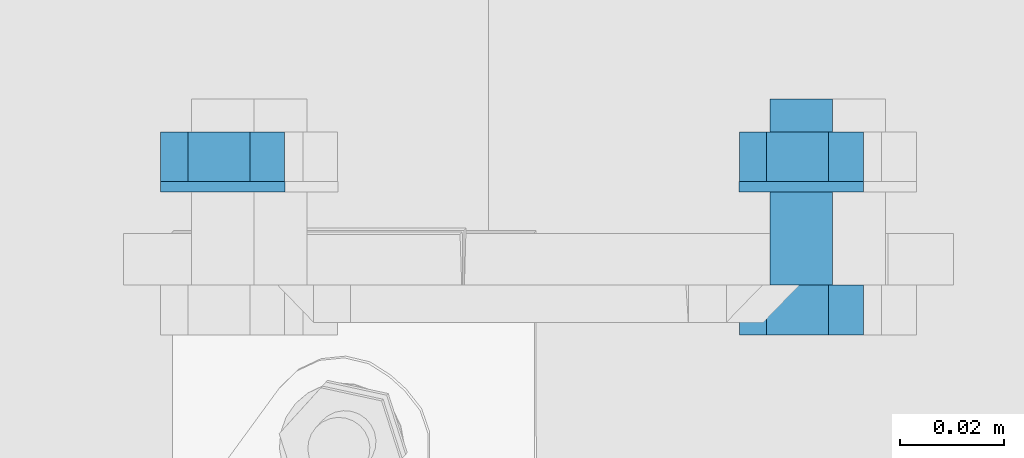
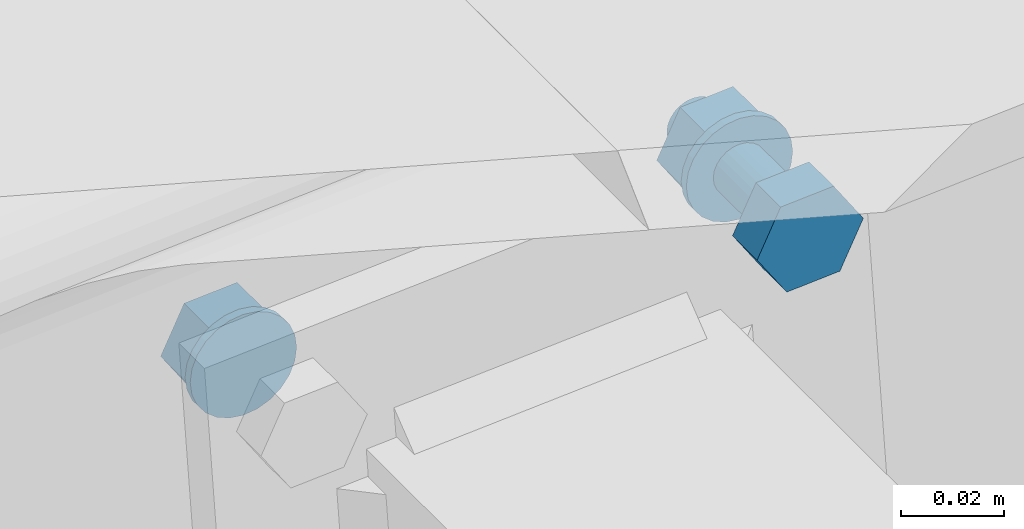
# One storey, part 71 of 72: 6 mechanical fasteners.
"""IFC4 building model written with IfcOpenShell, lengths in metres."""

from ifc_helpers import new_model, si_unit, frame, origin_with_axes, place, context, project, spatial, polyline, outline, extrude, type_object, element, save


model = new_model("IFC4")

# Units and contexts
model_context = context("Model", 3, precision=1e-05, world=origin_with_axes())
ifc_project = project(units=[si_unit("LENGTHUNIT", "METRE"), si_unit("AREAUNIT", "SQUARE_METRE"), si_unit("VOLUMEUNIT", "CUBIC_METRE"), si_unit("MASSUNIT", "GRAM", prefix="KILO"), si_unit("TIMEUNIT", "SECOND"), si_unit("PLANEANGLEUNIT", "RADIAN"), si_unit("SOLIDANGLEUNIT", "STERADIAN"), si_unit("THERMODYNAMICTEMPERATUREUNIT", "DEGREE_CELSIUS")], contexts=[model_context])

# Site, building, storey
placement_1 = place(None, origin_with_axes())
site = spatial("IfcSite", under=ifc_project, at=placement_1, Name="Italia", CompositionType="ELEMENT")
building = spatial("IfcBuilding", under=site, at=placement_1, Name="Pensilina", CompositionType="ELEMENT")
storey = spatial("IfcBuildingStorey", under=building, at=placement_1, Name="Storey 0", CompositionType="ELEMENT", Elevation=0.0)

# Mechanical fasteners
mechanical_fastener_type_1 = type_object("IfcMechanicalFastenerType", Name="Collegamento 0605_0604", PredefinedType="BOLT")
placement_2 = place(placement_1, origin_with_axes())
mechanical_fastener_1_placement = place(placement_2, origin_with_axes())
element("IfcMechanicalFastener", 1, at=mechanical_fastener_1_placement, inside=storey, type_object=mechanical_fastener_type_1, Name="Collegamento 0605_0604", NominalDiameter=0.012, context=model_context, shape_type="SweptSolid", body=[
    extrude(outline(polyline([(0.0, 0.0, 0.0), (-0.0119729, -0.000807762, 0.0), (-0.0186586, 0.00915718, 0.0), (-0.0133719, 0.0199299, 0.0), (-0.00139904, 0.0207376, 0.0), (0.00528669, 0.0107727, 0.0), (0.0, 0.0, 0.0)])), frame((5.75551, 21.1356, 4.08767), z_axis=(0.0, -1.0, 0.0), x_axis=(1.0, 0.0, 0.0)), (0.0, 0.0, 1.0), 0.00959969),
])
mechanical_fastener_type_2 = type_object("IfcMechanicalFastenerType", Name="Collegamento 0605_0604", PredefinedType="BOLT")
mechanical_fastener_2_placement = place(placement_2, origin_with_axes())
element("IfcMechanicalFastener", 2, at=mechanical_fastener_2_placement, inside=storey, type_object=mechanical_fastener_type_2, Name="Collegamento 0605_0604", NominalDiameter=0.024, context=model_context, shape_type="SweptSolid", body=[
    extrude(outline(polyline([(0.0, 0.0, 0.0), (-0.000409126, -0.00310564, 0.0), (-0.00160789, -0.00600004, 0.0), (-0.00351477, -0.00848532, 0.0), (-0.00600004, -0.0103922, 0.0), (-0.00889444, -0.011591, 0.0), (-0.0120001, -0.0120001, 0.0), (-0.0151057, -0.011591, 0.0), (-0.0180001, -0.0103922, 0.0), (-0.0204854, -0.00848532, 0.0), (-0.0223923, -0.00600004, 0.0), (-0.023591, -0.00310564, 0.0), (-0.0240002, 0.0, 0.0), (-0.023591, 0.00310564, 0.0), (-0.0223923, 0.00600004, 0.0), (-0.0204854, 0.00848532, 0.0), (-0.0180001, 0.0103922, 0.0), (-0.0151057, 0.011591, 0.0), (-0.0120001, 0.0120001, 0.0), (-0.00889444, 0.011591, 0.0), (-0.00600004, 0.0103922, 0.0), (-0.00351477, 0.00848532, 0.0), (-0.00160789, 0.00600004, 0.0), (-0.000409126, 0.00310564, 0.0), (0.0, 0.0, 0.0)])), frame((5.76082, 21.126, 4.09764), z_axis=(0.0, -1.0, 0.0), x_axis=(1.0, 0.0, 0.0)), (0.0, 0.0, 1.0), 0.00200081),
])
mechanical_fastener_type_3 = type_object("IfcMechanicalFastenerType", Name="Collegamento 0605_0604", PredefinedType="BOLT")
mechanical_fastener_3_placement = place(placement_2, origin_with_axes())
element("IfcMechanicalFastener", 3, at=mechanical_fastener_3_placement, inside=storey, type_object=mechanical_fastener_type_3, Name="Collegamento 0605_0604", NominalDiameter=0.012, context=model_context, shape_type="SweptSolid", body=[
    extrude(outline(polyline([(0.0, 0.0, 0.0), (-0.0119729, -0.000807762, 0.0), (-0.0186586, 0.00915718, 0.0), (-0.0133719, 0.0199299, 0.0), (-0.00139904, 0.0207376, 0.0), (0.00528669, 0.0107727, 0.0), (0.0, 0.0, 0.0)])), frame((5.86726, 21.106, 4.09521), z_axis=(0.0, -1.0, 0.0), x_axis=(1.0, 0.0, 0.0)), (0.0, 0.0, 1.0), 0.00959969),
])
mechanical_fastener_type_4 = type_object("IfcMechanicalFastenerType", Name="Collegamento 0605_0604", PredefinedType="BOLT")
mechanical_fastener_4_placement = place(placement_2, origin_with_axes())
element("IfcMechanicalFastener", 4, at=mechanical_fastener_4_placement, inside=storey, type_object=mechanical_fastener_type_4, Name="Collegamento 0605_0604", NominalDiameter=0.012, context=model_context, shape_type="SweptSolid", body=[
    extrude(outline(polyline([(0.0, 0.0, 0.0), (-0.000204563, -0.00155306, 0.0), (-0.000803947, -0.00299978, 0.0), (-0.00175762, -0.00424242, 0.0), (-0.00300026, -0.00519609, 0.0), (-0.00444698, -0.00579548, 0.0), (-0.00600004, -0.00600004, 0.0), (-0.0075531, -0.00579548, 0.0), (-0.00899982, -0.00519609, 0.0), (-0.0102425, -0.00424242, 0.0), (-0.0111961, -0.00299978, 0.0), (-0.0117955, -0.00155306, 0.0), (-0.0120001, 0.0, 0.0), (-0.0117955, 0.00155306, 0.0), (-0.0111961, 0.00299978, 0.0), (-0.0102425, 0.00424242, 0.0), (-0.00899982, 0.00519609, 0.0), (-0.0075531, 0.00579548, 0.0), (-0.00600004, 0.00600004, 0.0), (-0.00444698, 0.00579548, 0.0), (-0.00300026, 0.00519609, 0.0), (-0.00175762, 0.00424242, 0.0), (-0.000803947, 0.00299978, 0.0), (-0.000204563, 0.00155306, 0.0), (0.0, 0.0, 0.0)])), frame((5.86657, 21.142, 4.10518), z_axis=(0.0, -1.0, 0.0), x_axis=(1.0, 0.0, 0.0)), (0.0, 0.0, 1.0), 0.0359993),
])
mechanical_fastener_type_5 = type_object("IfcMechanicalFastenerType", Name="Collegamento 0605_0604", PredefinedType="BOLT")
mechanical_fastener_5_placement = place(placement_2, origin_with_axes())
element("IfcMechanicalFastener", 5, at=mechanical_fastener_5_placement, inside=storey, type_object=mechanical_fastener_type_5, Name="Collegamento 0605_0604", NominalDiameter=0.012, context=model_context, shape_type="SweptSolid", body=[
    extrude(outline(polyline([(0.0, 0.0, 0.0), (-0.0119729, -0.000807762, 0.0), (-0.0186586, 0.00915718, 0.0), (-0.0133719, 0.0199299, 0.0), (-0.00139904, 0.0207376, 0.0), (0.00528669, 0.0107727, 0.0), (0.0, 0.0, 0.0)])), frame((5.86726, 21.1356, 4.09521), z_axis=(0.0, -1.0, 0.0), x_axis=(1.0, 0.0, 0.0)), (0.0, 0.0, 1.0), 0.00959969),
])
mechanical_fastener_type_6 = type_object("IfcMechanicalFastenerType", Name="Collegamento 0605_0604", PredefinedType="BOLT")
mechanical_fastener_6_placement = place(placement_2, origin_with_axes())
element("IfcMechanicalFastener", 6, at=mechanical_fastener_6_placement, inside=storey, type_object=mechanical_fastener_type_6, Name="Collegamento 0605_0604", NominalDiameter=0.024, context=model_context, shape_type="SweptSolid", body=[
    extrude(outline(polyline([(0.0, 0.0, 0.0), (-0.000409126, -0.00310564, 0.0), (-0.00160789, -0.00600004, 0.0), (-0.00351477, -0.00848532, 0.0), (-0.00600004, -0.0103922, 0.0), (-0.00889444, -0.011591, 0.0), (-0.0120001, -0.0120001, 0.0), (-0.0151057, -0.011591, 0.0), (-0.0180001, -0.0103922, 0.0), (-0.0204854, -0.00848532, 0.0), (-0.0223923, -0.00600004, 0.0), (-0.023591, -0.00310564, 0.0), (-0.0240002, 0.0, 0.0), (-0.023591, 0.00310564, 0.0), (-0.0223923, 0.00600004, 0.0), (-0.0204854, 0.00848532, 0.0), (-0.0180001, 0.0103922, 0.0), (-0.0151057, 0.011591, 0.0), (-0.0120001, 0.0120001, 0.0), (-0.00889444, 0.011591, 0.0), (-0.00600004, 0.0103922, 0.0), (-0.00351477, 0.00848532, 0.0), (-0.00160789, 0.00600004, 0.0), (-0.000409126, 0.00310564, 0.0), (0.0, 0.0, 0.0)])), frame((5.87257, 21.126, 4.10518), z_axis=(0.0, -1.0, 0.0), x_axis=(1.0, 0.0, 0.0)), (0.0, 0.0, 1.0), 0.00200081),
])

save(model, "model.ifc")
